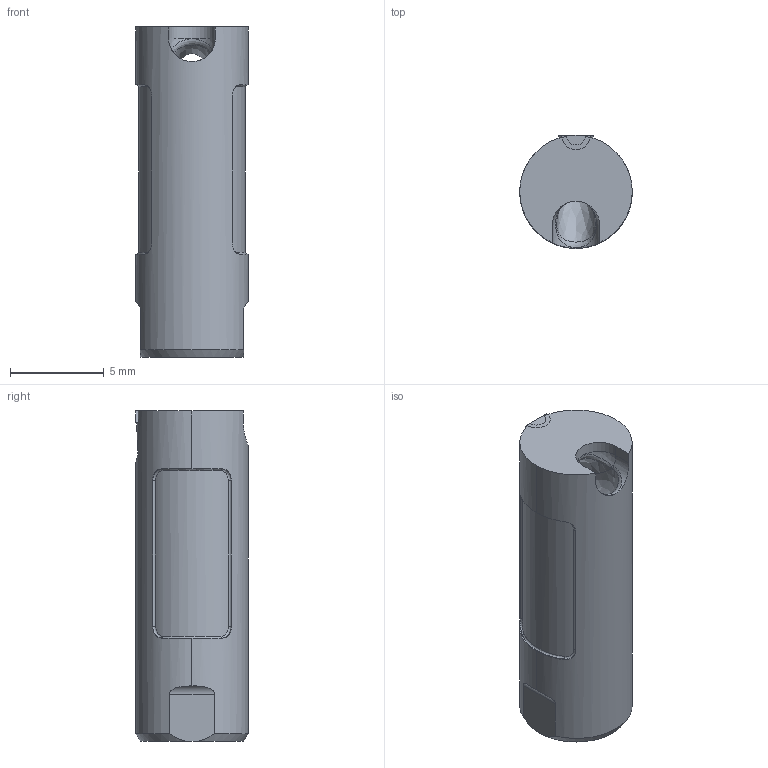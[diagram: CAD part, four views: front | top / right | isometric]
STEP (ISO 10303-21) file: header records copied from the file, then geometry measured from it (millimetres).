
FILE_DESCRIPTION((''),'2;1');
FILE_NAME('TGR6-06-S1','2007-11-26T',('tmeister'),(''),'PRO/ENGINEER BY PARAMETRIC TECHNOLOGY CORPORATION, 2002390','PRO/ENGINEER BY PARAMETRIC TECHNOLOGY CORPORATION, 2002390','');
FILE_SCHEMA(('CONFIG_CONTROL_DESIGN'));
Length unit declared in the file: millimetre
Products named in the file (1): TGR6-06-S1
Bounding box: 6 x 6 x 17.6 mm (x, y, z)
Volume: 352.4 mm3; surface area: 676.8 mm2
Topology: 1 solids, 3 shells, 76 faces, 334 edges, 259 vertices
Faces by surface type: cylinder 26, bspline 20, plane 17, cone 8, sphere 3, torus 2
Entity records: 6020 total; most frequent: CARTESIAN_POINT 3708, DIRECTION 432, ORIENTED_EDGE 375, EDGE_CURVE 191, AXIS2_PLACEMENT_3D 164, COMPOSITE_CURVE_SEGMENT 140, B_SPLINE_CURVE_WITH_KNOTS 120, VERTEX_POINT 119
